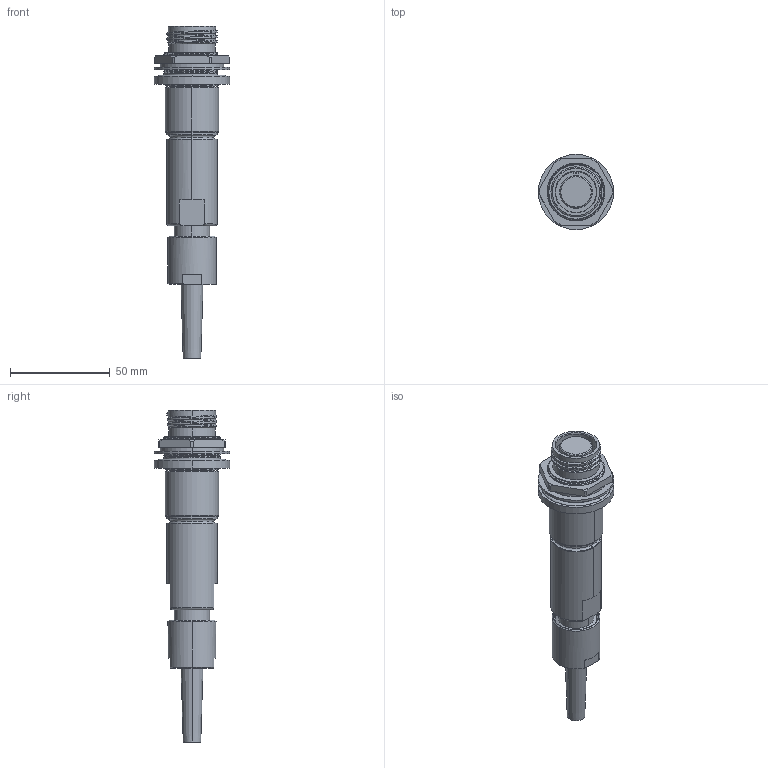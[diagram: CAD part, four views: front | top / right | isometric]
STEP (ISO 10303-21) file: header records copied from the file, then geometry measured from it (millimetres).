
FILE_DESCRIPTION (( 'STEP AP214' ), '1' );
FILE_NAME ('QLINK-RJTX-15XX-SXXX.STEP', '2025-09-30T21:59:13', ( '' ), ( '' ), 'SwSTEP 2.0', 'SolidWorks 2024', '' );
FILE_SCHEMA (( 'AUTOMOTIVE_DESIGN' ));
Length unit declared in the file: inch
Products named in the file (1): QLINK-RJTX-15XX-SXXX
Bounding box: 37.85 x 37.85 x 166.83 mm (x, y, z)
Volume: 68111.2 mm3; surface area: 22804.3 mm2
Topology: 3 solids, 3 shells, 245 faces, 610 edges, 391 vertices
Faces by surface type: cylinder 91, cone 46, plane 44, bspline 42, torus 22
Entity records: 24248 total; most frequent: CARTESIAN_POINT 18892, ORIENTED_EDGE 1220, DIRECTION 1009, EDGE_CURVE 610, AXIS2_PLACEMENT_3D 416, VERTEX_POINT 391, EDGE_LOOP 269, FACE_OUTER_BOUND 245
